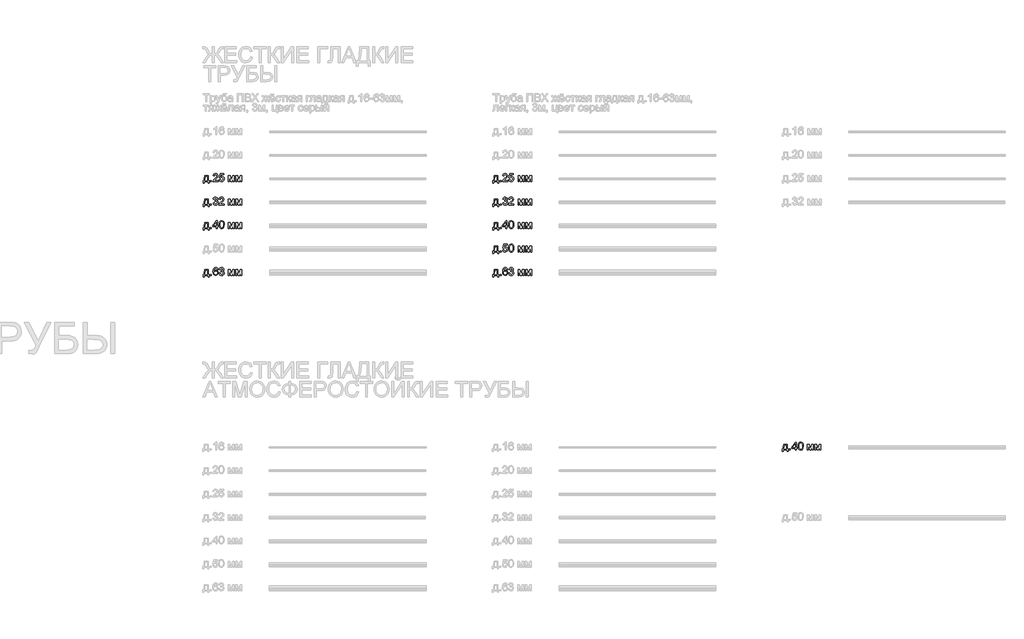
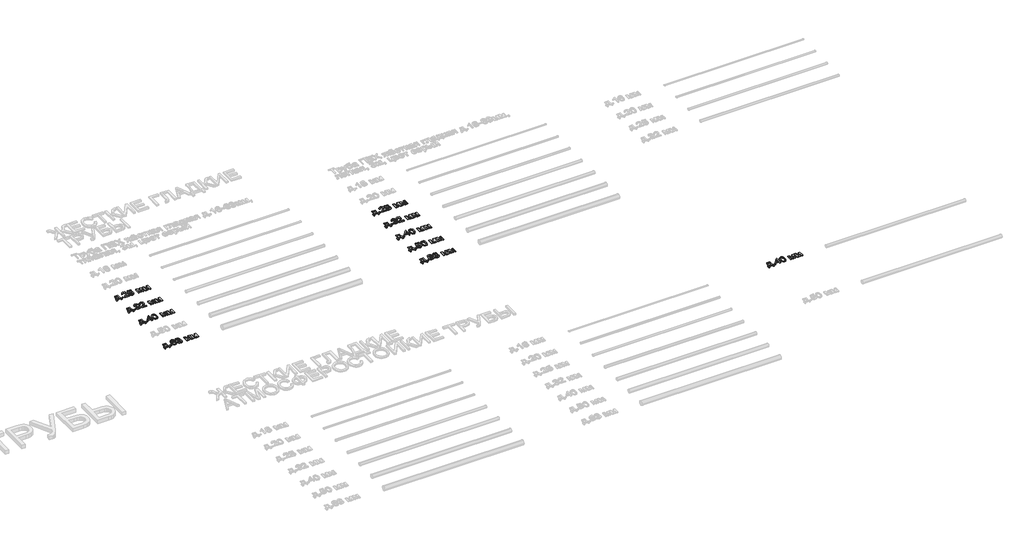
# One storey, part 89 of 98: 10 proxies.
"""IFC4 building model written with IfcOpenShell, lengths in millimetres."""

from ifc_helpers import new_model, si_unit, origin, origin_with_axes, place, context, project, spatial, polyline, outline, extrude, element, save

model = new_model("IFC4")

# Units and contexts
model_context = context("Model", 3, world=origin())
ifc_project = project(units=[si_unit("LENGTHUNIT", "METRE", prefix="MILLI")], contexts=[model_context])

# Site, building, storey
site = spatial("IfcSite", under=ifc_project)
building = spatial("IfcBuilding", under=site)
storey = spatial("IfcBuildingStorey", under=building, Name="Этаж 01", Elevation=0.0)

# Proxies
placement = place(None, origin())
element("IfcBuildingElementProxy", 1, Name="100", ObjectType="100", at=placement, inside=storey, context=model_context, shape_type="SweptSolid", body=[
    extrude(outline(polyline([(-26.9858135, -4163.7647458), (20.1030819, -4163.7647458), (20.1030819, -4224.9803098), (29.520861, -4224.9803098), (29.520861, -4257.9425366), (16.9638222, -4257.9425366), (16.9638222, -4237.5373486), (-34.8339627, -4237.5373486), (-34.8339627, -4257.9425366), (-47.3910015, -4257.9425366), (-47.3910015, -4224.9803098), (-39.5428522, -4224.9803098), (-29.8430303, -4201.031192), (-26.9858135, -4163.7647458)]), holes=[polyline([(-15.9984045, -4176.3217846), (-18.9414605, -4204.9307411), (-25.4161836, -4224.9803098), (7.5460431, -4224.9803098), (7.5460431, -4176.3217846), (-15.9984045, -4176.3217846)])]), origin_with_axes(), (0.0, 0.0, 1.0), 10.0),
    extrude(outline(polyline([(46.7867893, -4237.5373486), (46.7867893, -4224.9803098), (59.3438281, -4224.9803098), (59.3438281, -4237.5373486), (46.7867893, -4237.5373486)])), origin_with_axes(), (0.0, 0.0, 1.0), 10.0),
    extrude(outline(polyline([(144.1038398, -4224.9803098), (144.1038398, -4237.5373486), (78.1793862, -4237.5373486), (79.5282869, -4228.879859), (87.1557069, -4215.550268), (102.8765308, -4200.9944038), (124.5570431, -4180.074181), (129.9771711, -4165.8494105), (124.8636114, -4154.334704), (111.509495, -4149.6380772), (97.5912928, -4154.2243394), (92.3060548, -4166.9040055), (79.7490161, -4165.3343757), (82.7932396, -4153.1881385), (89.3752616, -4144.316051), (99.1517256, -4138.8897916), (111.7792751, -4137.0810385), (124.4987951, -4139.0921267), (134.256865, -4145.1253914), (140.4648737, -4154.1385003), (142.5342099, -4165.089121), (140.3023925, -4176.9962349), (132.8834389, -4189.308019), (114.8940093, -4206.5126337), (100.4485097, -4218.5914259), (94.7831269, -4224.9803098), (144.1038398, -4224.9803098)])), origin_with_axes(), (0.0, 0.0, 1.0), 10.0),
    extrude(outline(polyline([(156.6608785, -4210.8536412), (169.2179173, -4209.2840114), (175.5454876, -4222.2211949), (188.6666121, -4226.5499397), (197.6674583, -4225.0446892), (204.4119615, -4220.5289377), (208.6242103, -4213.5238514), (210.0282933, -4204.5505964), (204.7675808, -4189.6391128), (198.1610333, -4185.5372286), (188.8628158, -4184.1699338), (177.8386187, -4186.3527004), (170.7875471, -4192.0180831), (158.2305084, -4190.4484532), (169.2179173, -4138.6506683), (217.8764425, -4138.6506683), (217.8764425, -4151.2077071), (179.3714604, -4151.2077071), (174.0003832, -4178.8724331), (182.9705725, -4173.4277796), (192.3699575, -4171.6128951), (204.1023275, -4173.8631066), (213.8420033, -4180.6137412), (220.3994999, -4190.9021744), (222.5853321, -4203.7657815), (220.6171634, -4216.3228202), (214.7126574, -4227.0649745), (203.4064174, -4236.0964775), (188.6175612, -4239.1069785), (176.2843173, -4237.1725323), (166.4588023, -4231.3691938), (159.7234961, -4222.3714134), (156.6608785, -4210.8536412)])), origin_with_axes(), (0.0, 0.0, 1.0), 10.0),
    extrude(outline(polyline([(275.9527468, -4163.7647458), (297.5596827, -4163.7647458), (314.2124743, -4222.8220688), (332.1651157, -4163.7647458), (352.8646093, -4163.7647458), (352.8646093, -4237.5373486), (340.3075705, -4237.5373486), (340.3075705, -4178.1366691), (322.2568273, -4237.5373486), (305.7757139, -4237.5373486), (288.5097856, -4175.291715), (288.5097856, -4237.5373486), (275.9527468, -4237.5373486), (275.9527468, -4163.7647458)])), origin_with_axes(), (0.0, 0.0, 1.0), 10.0),
    extrude(outline(polyline([(371.7001674, -4163.7647458), (393.3071033, -4163.7647458), (409.9598949, -4222.8220688), (427.9125363, -4163.7647458), (448.6120299, -4163.7647458), (448.6120299, -4237.5373486), (436.0549911, -4237.5373486), (436.0549911, -4178.1366691), (418.0042479, -4237.5373486), (401.5231345, -4237.5373486), (384.2572062, -4175.291715), (384.2572062, -4237.5373486), (371.7001674, -4237.5373486), (371.7001674, -4163.7647458)])), origin_with_axes(), (0.0, 0.0, 1.0), 10.0),
])
element("IfcBuildingElementProxy", 2, Name="100", ObjectType="100", at=placement, inside=storey, context=model_context, shape_type="SweptSolid", body=[
    extrude(outline(polyline([(-26.9858135, -4463.7647458), (20.1030819, -4463.7647458), (20.1030819, -4524.9803098), (29.520861, -4524.9803098), (29.520861, -4557.9425366), (16.9638222, -4557.9425366), (16.9638222, -4537.5373486), (-34.8339627, -4537.5373486), (-34.8339627, -4557.9425366), (-47.3910015, -4557.9425366), (-47.3910015, -4524.9803098), (-39.5428522, -4524.9803098), (-29.8430303, -4501.031192), (-26.9858135, -4463.7647458)]), holes=[polyline([(-15.9984045, -4476.3217846), (-18.9414605, -4504.9307411), (-25.4161836, -4524.9803098), (7.5460431, -4524.9803098), (7.5460431, -4476.3217846), (-15.9984045, -4476.3217846)])]), origin_with_axes(), (0.0, 0.0, 1.0), 10.0),
    extrude(outline(polyline([(46.7867893, -4537.5373486), (46.7867893, -4524.9803098), (59.3438281, -4524.9803098), (59.3438281, -4537.5373486), (46.7867893, -4537.5373486)])), origin_with_axes(), (0.0, 0.0, 1.0), 10.0),
    extrude(outline(polyline([(79.7490161, -4510.8536412), (92.3060548, -4509.2840114), (99.2344991, -4522.5032377), (112.196208, -4526.5499397), (120.8046467, -4525.1581195), (127.4510481, -4520.9826588), (133.1164308, -4507.1993467), (127.500099, -4494.2131123), (113.2262776, -4489.0750271), (104.4216352, -4490.4484532), (105.8195868, -4477.8914145), (107.830675, -4478.0385673), (122.079971, -4474.4333237), (126.8256487, -4469.8593242), (128.4075413, -4463.3478129), (123.8212791, -4453.5253636), (112.0000043, -4449.6380772), (100.0315767, -4453.5621518), (93.8756847, -4465.3343757), (81.3186459, -4463.7647458), (85.01586, -4452.4891627), (91.5948163, -4444.0707964), (100.5956625, -4438.8284779), (111.5585459, -4437.0810385), (126.7030214, -4440.5268665), (137.2980228, -4449.9446456), (140.9645801, -4462.6120489), (137.4819638, -4474.188069), (127.181268, -4482.5022021), (140.8664782, -4491.0861154), (145.6734696, -4507.4200759), (143.2699739, -4519.6582836), (136.0594868, -4529.8854031), (125.1763111, -4536.8015846), (111.7547496, -4539.1069785), (99.6146438, -4537.1388098), (89.7308809, -4531.2343038), (82.8576189, -4522.2028008), (79.7490161, -4510.8536412)])), origin_with_axes(), (0.0, 0.0, 1.0), 10.0),
    extrude(outline(polyline([(221.0157022, -4524.9803098), (221.0157022, -4537.5373486), (155.0912487, -4537.5373486), (156.4401493, -4528.879859), (164.0675694, -4515.550268), (179.7883933, -4500.9944038), (201.4689055, -4480.074181), (206.8890336, -4465.8494105), (201.7754739, -4454.334704), (188.4213574, -4449.6380772), (174.5031553, -4454.2243394), (169.2179173, -4466.9040055), (156.6608785, -4465.3343757), (159.705102, -4453.1881385), (166.2871241, -4444.316051), (176.0635881, -4438.8897916), (188.6911376, -4437.0810385), (201.4106576, -4439.0921267), (211.1687275, -4445.1253914), (217.3767361, -4454.1385003), (219.4460724, -4465.089121), (217.2142549, -4476.9962349), (209.7953014, -4489.308019), (191.8058718, -4506.5126337), (177.3603721, -4518.5914259), (171.6949894, -4524.9803098), (221.0157022, -4524.9803098)])), origin_with_axes(), (0.0, 0.0, 1.0), 10.0),
    extrude(outline(polyline([(275.9527468, -4463.7647458), (297.5596827, -4463.7647458), (314.2124743, -4522.8220688), (332.1651157, -4463.7647458), (352.8646093, -4463.7647458), (352.8646093, -4537.5373486), (340.3075705, -4537.5373486), (340.3075705, -4478.1366691), (322.2568273, -4537.5373486), (305.7757139, -4537.5373486), (288.5097856, -4475.291715), (288.5097856, -4537.5373486), (275.9527468, -4537.5373486), (275.9527468, -4463.7647458)])), origin_with_axes(), (0.0, 0.0, 1.0), 10.0),
    extrude(outline(polyline([(371.7001674, -4463.7647458), (393.3071033, -4463.7647458), (409.9598949, -4522.8220688), (427.9125363, -4463.7647458), (448.6120299, -4463.7647458), (448.6120299, -4537.5373486), (436.0549911, -4537.5373486), (436.0549911, -4478.1366691), (418.0042479, -4537.5373486), (401.5231345, -4537.5373486), (384.2572062, -4475.291715), (384.2572062, -4537.5373486), (371.7001674, -4537.5373486), (371.7001674, -4463.7647458)])), origin_with_axes(), (0.0, 0.0, 1.0), 10.0),
])
element("IfcBuildingElementProxy", 3, Name="100", ObjectType="100", at=placement, inside=storey, context=model_context, shape_type="SweptSolid", body=[
    extrude(outline(polyline([(-26.9858135, -4763.7647458), (20.1030819, -4763.7647458), (20.1030819, -4824.9803098), (29.520861, -4824.9803098), (29.520861, -4857.9425366), (16.9638222, -4857.9425366), (16.9638222, -4837.5373486), (-34.8339627, -4837.5373486), (-34.8339627, -4857.9425366), (-47.3910015, -4857.9425366), (-47.3910015, -4824.9803098), (-39.5428522, -4824.9803098), (-29.8430303, -4801.031192), (-26.9858135, -4763.7647458)]), holes=[polyline([(-15.9984045, -4776.3217846), (-18.9414605, -4804.9307411), (-25.4161836, -4824.9803098), (7.5460431, -4824.9803098), (7.5460431, -4776.3217846), (-15.9984045, -4776.3217846)])]), origin_with_axes(), (0.0, 0.0, 1.0), 10.0),
    extrude(outline(polyline([(46.7867893, -4837.5373486), (46.7867893, -4824.9803098), (59.3438281, -4824.9803098), (59.3438281, -4837.5373486), (46.7867893, -4837.5373486)])), origin_with_axes(), (0.0, 0.0, 1.0), 10.0),
    extrude(outline(polyline([(120.5593921, -4837.5373486), (120.5593921, -4813.9929009), (75.0401265, -4813.9929009), (75.0401265, -4801.4358622), (123.6986518, -4738.6506683), (133.1164308, -4738.6506683), (133.1164308, -4801.4358622), (145.6734696, -4801.4358622), (145.6734696, -4813.9929009), (133.1164308, -4813.9929009), (133.1164308, -4837.5373486), (120.5593921, -4837.5373486)]), holes=[polyline([(120.5593921, -4801.4358622), (120.5593921, -4762.6365744), (90.4911703, -4801.4358622), (120.5593921, -4801.4358622)])]), origin_with_axes(), (0.0, 0.0, 1.0), 10.0),
    extrude(outline(polyline([(156.6608785, -4788.1185339), (160.3519612, -4759.2152718), (171.3148447, -4742.5502175), (189.6231053, -4737.0810385), (204.2893342, -4740.3184), (214.4183518, -4749.65034), (220.3044637, -4764.5127726), (222.5853321, -4788.1185339), (218.9310376, -4816.8991687), (208.0049423, -4833.6010113), (199.7735827, -4837.7304867), (189.6231053, -4839.1069785), (176.5755572, -4836.7157455), (166.6672688, -4829.5420466), (159.1624761, -4812.5520298), (156.6608785, -4788.1185339)]), holes=[polyline([(169.2179173, -4788.0940085), (170.6894453, -4807.8462059), (175.1040292, -4819.2781389), (181.6768542, -4824.7319895), (189.6231053, -4826.5499397), (197.5693564, -4824.7258581), (204.1421814, -4819.2536135), (208.5567653, -4807.8155491), (210.0282933, -4788.0940085), (208.6058162, -4768.7863351), (204.3383851, -4757.2654973), (197.7778228, -4751.5449322), (189.4759525, -4749.6380772), (181.6155405, -4751.3180717), (175.3002329, -4756.358055), (170.7384962, -4768.5962627), (169.2179173, -4788.0940085)])]), origin_with_axes(), (0.0, 0.0, 1.0), 10.0),
    extrude(outline(polyline([(275.9527468, -4763.7647458), (297.5596827, -4763.7647458), (314.2124743, -4822.8220688), (332.1651157, -4763.7647458), (352.8646093, -4763.7647458), (352.8646093, -4837.5373486), (340.3075705, -4837.5373486), (340.3075705, -4778.1366691), (322.2568273, -4837.5373486), (305.7757139, -4837.5373486), (288.5097856, -4775.291715), (288.5097856, -4837.5373486), (275.9527468, -4837.5373486), (275.9527468, -4763.7647458)])), origin_with_axes(), (0.0, 0.0, 1.0), 10.0),
    extrude(outline(polyline([(371.7001674, -4763.7647458), (393.3071033, -4763.7647458), (409.9598949, -4822.8220688), (427.9125363, -4763.7647458), (448.6120299, -4763.7647458), (448.6120299, -4837.5373486), (436.0549911, -4837.5373486), (436.0549911, -4778.1366691), (418.0042479, -4837.5373486), (401.5231345, -4837.5373486), (384.2572062, -4775.291715), (384.2572062, -4837.5373486), (371.7001674, -4837.5373486), (371.7001674, -4763.7647458)])), origin_with_axes(), (0.0, 0.0, 1.0), 10.0),
])
element("IfcBuildingElementProxy", 4, Name="100", ObjectType="100", at=placement, inside=storey, context=model_context, shape_type="SweptSolid", body=[
    extrude(outline(polyline([(-26.9858135, -5363.7647458), (20.1030819, -5363.7647458), (20.1030819, -5424.9803098), (29.520861, -5424.9803098), (29.520861, -5457.9425366), (16.9638222, -5457.9425366), (16.9638222, -5437.5373486), (-34.8339627, -5437.5373486), (-34.8339627, -5457.9425366), (-47.3910015, -5457.9425366), (-47.3910015, -5424.9803098), (-39.5428522, -5424.9803098), (-29.8430303, -5401.031192), (-26.9858135, -5363.7647458)]), holes=[polyline([(-15.9984045, -5376.3217846), (-18.9414605, -5404.9307411), (-25.4161836, -5424.9803098), (7.5460431, -5424.9803098), (7.5460431, -5376.3217846), (-15.9984045, -5376.3217846)])]), origin_with_axes(), (0.0, 0.0, 1.0), 10.0),
    extrude(outline(polyline([(46.7867893, -5437.5373486), (46.7867893, -5424.9803098), (59.3438281, -5424.9803098), (59.3438281, -5437.5373486), (46.7867893, -5437.5373486)])), origin_with_axes(), (0.0, 0.0, 1.0), 10.0),
    extrude(outline(polyline([(144.1038398, -5363.7647458), (131.546801, -5365.3343757), (126.7888605, -5354.8620016), (114.2072963, -5349.6380772), (102.8765308, -5352.6792351), (94.3048803, -5364.0958396), (90.736425, -5386.4753277), (101.809673, -5376.4566747), (115.5316715, -5373.1825249), (127.132217, -5375.4204737), (136.8688272, -5382.1343201), (143.472309, -5392.3920964), (145.6734696, -5405.2618349), (141.5286658, -5422.5890769), (130.1243239, -5434.85181), (113.667736, -5439.1069785), (99.4215058, -5436.2865498), (88.0754119, -5427.8252639), (80.6533926, -5412.8892549), (78.1793862, -5390.644657), (80.9262384, -5365.6348127), (89.1667951, -5348.5344312), (100.4178528, -5339.9443867), (114.9921112, -5337.0810385), (126.010177, -5338.8530034), (134.8332135, -5344.1688982), (141.013631, -5352.61179), (144.1038398, -5363.7647458)]), holes=[polyline([(90.736425, -5405.0656312), (93.6426927, -5415.9426755), (101.3682146, -5423.8398757), (112.6867174, -5426.5499397), (120.9732593, -5425.1458567), (127.4878363, -5420.9336079), (131.7092822, -5414.311732), (133.1164308, -5405.6787678), (131.7276763, -5397.3922259), (127.5614127, -5391.0738526), (120.9364711, -5387.0731359), (112.1716826, -5385.7395637), (96.9781562, -5391.0738526), (92.2968578, -5397.2389417), (90.736425, -5405.0656312)])]), origin_with_axes(), (0.0, 0.0, 1.0), 10.0),
    extrude(outline(polyline([(156.6608785, -5410.8536412), (169.2179173, -5409.2840114), (176.1463615, -5422.5032377), (189.1080705, -5426.5499397), (197.7165092, -5425.1581195), (204.3629106, -5420.9826588), (210.0282933, -5407.1993467), (204.4119615, -5394.2131123), (190.1381401, -5389.0750271), (181.3334977, -5390.4484532), (182.7314492, -5377.8914145), (184.7425375, -5378.0385673), (198.9918334, -5374.4333237), (203.7375112, -5369.8593242), (205.3194038, -5363.3478129), (200.7331415, -5353.5253636), (188.9118668, -5349.6380772), (176.9434392, -5353.5621518), (170.7875471, -5365.3343757), (158.2305084, -5363.7647458), (161.9277224, -5352.4891627), (168.5066788, -5344.0707964), (177.5075249, -5338.8284779), (188.4704084, -5337.0810385), (203.6148838, -5340.5268665), (214.2098853, -5349.9446456), (217.8764425, -5362.6120489), (214.3938263, -5374.188069), (204.0931304, -5382.5022021), (217.7783407, -5391.0861154), (222.5853321, -5407.4200759), (220.1818364, -5419.6582836), (212.9713493, -5429.8854031), (202.0881736, -5436.8015846), (188.6666121, -5439.1069785), (176.5265063, -5437.1388098), (166.6427433, -5431.2343038), (159.7694814, -5422.2028008), (156.6608785, -5410.8536412)])), origin_with_axes(), (0.0, 0.0, 1.0), 10.0),
    extrude(outline(polyline([(275.9527468, -5363.7647458), (297.5596827, -5363.7647458), (314.2124743, -5422.8220688), (332.1651157, -5363.7647458), (352.8646093, -5363.7647458), (352.8646093, -5437.5373486), (340.3075705, -5437.5373486), (340.3075705, -5378.1366691), (322.2568273, -5437.5373486), (305.7757139, -5437.5373486), (288.5097856, -5375.291715), (288.5097856, -5437.5373486), (275.9527468, -5437.5373486), (275.9527468, -5363.7647458)])), origin_with_axes(), (0.0, 0.0, 1.0), 10.0),
    extrude(outline(polyline([(371.7001674, -5363.7647458), (393.3071033, -5363.7647458), (409.9598949, -5422.8220688), (427.9125363, -5363.7647458), (448.6120299, -5363.7647458), (448.6120299, -5437.5373486), (436.0549911, -5437.5373486), (436.0549911, -5378.1366691), (418.0042479, -5437.5373486), (401.5231345, -5437.5373486), (384.2572062, -5375.291715), (384.2572062, -5437.5373486), (371.7001674, -5437.5373486), (371.7001674, -5363.7647458)])), origin_with_axes(), (0.0, 0.0, 1.0), 10.0),
])
element("IfcBuildingElementProxy", 5, Name="100", ObjectType="100", at=placement, inside=storey, context=model_context, shape_type="SweptSolid", body=[
    extrude(outline(polyline([(3673.0141865, -4163.7647458), (3720.1030819, -4163.7647458), (3720.1030819, -4224.9803098), (3729.520861, -4224.9803098), (3729.520861, -4257.9425366), (3716.9638222, -4257.9425366), (3716.9638222, -4237.5373486), (3665.1660373, -4237.5373486), (3665.1660373, -4257.9425366), (3652.6089985, -4257.9425366), (3652.6089985, -4224.9803098), (3660.4571478, -4224.9803098), (3670.1569697, -4201.031192), (3673.0141865, -4163.7647458)]), holes=[polyline([(3684.0015955, -4176.3217846), (3681.0585395, -4204.9307411), (3674.5838164, -4224.9803098), (3707.5460431, -4224.9803098), (3707.5460431, -4176.3217846), (3684.0015955, -4176.3217846)])]), origin_with_axes(), (0.0, 0.0, 1.0), 10.0),
    extrude(outline(polyline([(3746.7867893, -4237.5373486), (3746.7867893, -4224.9803098), (3759.3438281, -4224.9803098), (3759.3438281, -4237.5373486), (3746.7867893, -4237.5373486)])), origin_with_axes(), (0.0, 0.0, 1.0), 10.0),
    extrude(outline(polyline([(3844.1038398, -4224.9803098), (3844.1038398, -4237.5373486), (3778.1793862, -4237.5373486), (3779.5282869, -4228.879859), (3787.1557069, -4215.550268), (3802.8765308, -4200.9944038), (3824.5570431, -4180.074181), (3829.9771711, -4165.8494105), (3824.8636114, -4154.334704), (3811.509495, -4149.6380772), (3797.5912928, -4154.2243394), (3792.3060548, -4166.9040055), (3779.7490161, -4165.3343757), (3782.7932396, -4153.1881385), (3789.3752616, -4144.316051), (3799.1517256, -4138.8897916), (3811.7792751, -4137.0810385), (3824.4987951, -4139.0921267), (3834.256865, -4145.1253914), (3840.4648737, -4154.1385003), (3842.5342099, -4165.089121), (3840.3023925, -4176.9962349), (3832.8834389, -4189.308019), (3814.8940093, -4206.5126337), (3800.4485097, -4218.5914259), (3794.7831269, -4224.9803098), (3844.1038398, -4224.9803098)])), origin_with_axes(), (0.0, 0.0, 1.0), 10.0),
    extrude(outline(polyline([(3856.6608785, -4210.8536412), (3869.2179173, -4209.2840114), (3875.5454876, -4222.2211949), (3888.6666121, -4226.5499397), (3897.6674583, -4225.0446892), (3904.4119615, -4220.5289377), (3908.6242103, -4213.5238514), (3910.0282933, -4204.5505964), (3904.7675808, -4189.6391128), (3898.1610333, -4185.5372286), (3888.8628158, -4184.1699338), (3877.8386187, -4186.3527004), (3870.7875471, -4192.0180831), (3858.2305084, -4190.4484532), (3869.2179173, -4138.6506683), (3917.8764425, -4138.6506683), (3917.8764425, -4151.2077071), (3879.3714604, -4151.2077071), (3874.0003832, -4178.8724331), (3882.9705725, -4173.4277796), (3892.3699575, -4171.6128951), (3904.1023275, -4173.8631066), (3913.8420033, -4180.6137412), (3920.3994999, -4190.9021744), (3922.5853321, -4203.7657815), (3920.6171634, -4216.3228202), (3914.7126574, -4227.0649745), (3903.4064174, -4236.0964775), (3888.6175612, -4239.1069785), (3876.2843173, -4237.1725323), (3866.4588023, -4231.3691938), (3859.7234961, -4222.3714134), (3856.6608785, -4210.8536412)])), origin_with_axes(), (0.0, 0.0, 1.0), 10.0),
    extrude(outline(polyline([(3975.9527468, -4163.7647458), (3997.5596827, -4163.7647458), (4014.2124743, -4222.8220688), (4032.1651157, -4163.7647458), (4052.8646093, -4163.7647458), (4052.8646093, -4237.5373486), (4040.3075705, -4237.5373486), (4040.3075705, -4178.1366691), (4022.2568273, -4237.5373486), (4005.7757139, -4237.5373486), (3988.5097856, -4175.291715), (3988.5097856, -4237.5373486), (3975.9527468, -4237.5373486), (3975.9527468, -4163.7647458)])), origin_with_axes(), (0.0, 0.0, 1.0), 10.0),
    extrude(outline(polyline([(4071.7001674, -4163.7647458), (4093.3071033, -4163.7647458), (4109.9598949, -4222.8220688), (4127.9125363, -4163.7647458), (4148.6120299, -4163.7647458), (4148.6120299, -4237.5373486), (4136.0549911, -4237.5373486), (4136.0549911, -4178.1366691), (4118.0042479, -4237.5373486), (4101.5231345, -4237.5373486), (4084.2572062, -4175.291715), (4084.2572062, -4237.5373486), (4071.7001674, -4237.5373486), (4071.7001674, -4163.7647458)])), origin_with_axes(), (0.0, 0.0, 1.0), 10.0),
])
element("IfcBuildingElementProxy", 6, Name="100", ObjectType="100", at=placement, inside=storey, context=model_context, shape_type="SweptSolid", body=[
    extrude(outline(polyline([(3673.0141865, -4463.7647458), (3720.1030819, -4463.7647458), (3720.1030819, -4524.9803098), (3729.520861, -4524.9803098), (3729.520861, -4557.9425366), (3716.9638222, -4557.9425366), (3716.9638222, -4537.5373486), (3665.1660373, -4537.5373486), (3665.1660373, -4557.9425366), (3652.6089985, -4557.9425366), (3652.6089985, -4524.9803098), (3660.4571478, -4524.9803098), (3670.1569697, -4501.031192), (3673.0141865, -4463.7647458)]), holes=[polyline([(3684.0015955, -4476.3217846), (3681.0585395, -4504.9307411), (3674.5838164, -4524.9803098), (3707.5460431, -4524.9803098), (3707.5460431, -4476.3217846), (3684.0015955, -4476.3217846)])]), origin_with_axes(), (0.0, 0.0, 1.0), 10.0),
    extrude(outline(polyline([(3746.7867893, -4537.5373486), (3746.7867893, -4524.9803098), (3759.3438281, -4524.9803098), (3759.3438281, -4537.5373486), (3746.7867893, -4537.5373486)])), origin_with_axes(), (0.0, 0.0, 1.0), 10.0),
    extrude(outline(polyline([(3779.7490161, -4510.8536412), (3792.3060548, -4509.2840114), (3799.2344991, -4522.5032377), (3812.196208, -4526.5499397), (3820.8046467, -4525.1581195), (3827.4510481, -4520.9826588), (3833.1164308, -4507.1993467), (3827.500099, -4494.2131123), (3813.2262776, -4489.0750271), (3804.4216352, -4490.4484532), (3805.8195868, -4477.8914145), (3807.830675, -4478.0385673), (3822.079971, -4474.4333237), (3826.8256487, -4469.8593242), (3828.4075413, -4463.3478129), (3823.8212791, -4453.5253636), (3812.0000043, -4449.6380772), (3800.0315767, -4453.5621518), (3793.8756847, -4465.3343757), (3781.3186459, -4463.7647458), (3785.01586, -4452.4891627), (3791.5948163, -4444.0707964), (3800.5956625, -4438.8284779), (3811.5585459, -4437.0810385), (3826.7030214, -4440.5268665), (3837.2980228, -4449.9446456), (3840.9645801, -4462.6120489), (3837.4819638, -4474.188069), (3827.181268, -4482.5022021), (3840.8664782, -4491.0861154), (3845.6734696, -4507.4200759), (3843.2699739, -4519.6582836), (3836.0594868, -4529.8854031), (3825.1763111, -4536.8015846), (3811.7547496, -4539.1069785), (3799.6146438, -4537.1388098), (3789.7308809, -4531.2343038), (3782.8576189, -4522.2028008), (3779.7490161, -4510.8536412)])), origin_with_axes(), (0.0, 0.0, 1.0), 10.0),
    extrude(outline(polyline([(3921.0157022, -4524.9803098), (3921.0157022, -4537.5373486), (3855.0912487, -4537.5373486), (3856.4401493, -4528.879859), (3864.0675694, -4515.550268), (3879.7883933, -4500.9944038), (3901.4689055, -4480.074181), (3906.8890336, -4465.8494105), (3901.7754739, -4454.334704), (3888.4213574, -4449.6380772), (3874.5031553, -4454.2243394), (3869.2179173, -4466.9040055), (3856.6608785, -4465.3343757), (3859.705102, -4453.1881385), (3866.2871241, -4444.316051), (3876.0635881, -4438.8897916), (3888.6911376, -4437.0810385), (3901.4106576, -4439.0921267), (3911.1687275, -4445.1253914), (3917.3767361, -4454.1385003), (3919.4460724, -4465.089121), (3917.2142549, -4476.9962349), (3909.7953014, -4489.308019), (3891.8058718, -4506.5126337), (3877.3603721, -4518.5914259), (3871.6949894, -4524.9803098), (3921.0157022, -4524.9803098)])), origin_with_axes(), (0.0, 0.0, 1.0), 10.0),
    extrude(outline(polyline([(3975.9527468, -4463.7647458), (3997.5596827, -4463.7647458), (4014.2124743, -4522.8220688), (4032.1651157, -4463.7647458), (4052.8646093, -4463.7647458), (4052.8646093, -4537.5373486), (4040.3075705, -4537.5373486), (4040.3075705, -4478.1366691), (4022.2568273, -4537.5373486), (4005.7757139, -4537.5373486), (3988.5097856, -4475.291715), (3988.5097856, -4537.5373486), (3975.9527468, -4537.5373486), (3975.9527468, -4463.7647458)])), origin_with_axes(), (0.0, 0.0, 1.0), 10.0),
    extrude(outline(polyline([(4071.7001674, -4463.7647458), (4093.3071033, -4463.7647458), (4109.9598949, -4522.8220688), (4127.9125363, -4463.7647458), (4148.6120299, -4463.7647458), (4148.6120299, -4537.5373486), (4136.0549911, -4537.5373486), (4136.0549911, -4478.1366691), (4118.0042479, -4537.5373486), (4101.5231345, -4537.5373486), (4084.2572062, -4475.291715), (4084.2572062, -4537.5373486), (4071.7001674, -4537.5373486), (4071.7001674, -4463.7647458)])), origin_with_axes(), (0.0, 0.0, 1.0), 10.0),
])
element("IfcBuildingElementProxy", 7, Name="100", ObjectType="100", at=placement, inside=storey, context=model_context, shape_type="SweptSolid", body=[
    extrude(outline(polyline([(3673.0141865, -4763.7647458), (3720.1030819, -4763.7647458), (3720.1030819, -4824.9803098), (3729.520861, -4824.9803098), (3729.520861, -4857.9425366), (3716.9638222, -4857.9425366), (3716.9638222, -4837.5373486), (3665.1660373, -4837.5373486), (3665.1660373, -4857.9425366), (3652.6089985, -4857.9425366), (3652.6089985, -4824.9803098), (3660.4571478, -4824.9803098), (3670.1569697, -4801.031192), (3673.0141865, -4763.7647458)]), holes=[polyline([(3684.0015955, -4776.3217846), (3681.0585395, -4804.9307411), (3674.5838164, -4824.9803098), (3707.5460431, -4824.9803098), (3707.5460431, -4776.3217846), (3684.0015955, -4776.3217846)])]), origin_with_axes(), (0.0, 0.0, 1.0), 10.0),
    extrude(outline(polyline([(3746.7867893, -4837.5373486), (3746.7867893, -4824.9803098), (3759.3438281, -4824.9803098), (3759.3438281, -4837.5373486), (3746.7867893, -4837.5373486)])), origin_with_axes(), (0.0, 0.0, 1.0), 10.0),
    extrude(outline(polyline([(3820.5593921, -4837.5373486), (3820.5593921, -4813.9929009), (3775.0401265, -4813.9929009), (3775.0401265, -4801.4358622), (3823.6986518, -4738.6506683), (3833.1164308, -4738.6506683), (3833.1164308, -4801.4358622), (3845.6734696, -4801.4358622), (3845.6734696, -4813.9929009), (3833.1164308, -4813.9929009), (3833.1164308, -4837.5373486), (3820.5593921, -4837.5373486)]), holes=[polyline([(3820.5593921, -4801.4358622), (3820.5593921, -4762.6365744), (3790.4911703, -4801.4358622), (3820.5593921, -4801.4358622)])]), origin_with_axes(), (0.0, 0.0, 1.0), 10.0),
    extrude(outline(polyline([(3856.6608785, -4788.1185339), (3860.3519612, -4759.2152718), (3871.3148447, -4742.5502175), (3889.6231053, -4737.0810385), (3904.2893342, -4740.3184), (3914.4183518, -4749.65034), (3920.3044637, -4764.5127726), (3922.5853321, -4788.1185339), (3918.9310376, -4816.8991687), (3908.0049423, -4833.6010113), (3899.7735827, -4837.7304867), (3889.6231053, -4839.1069785), (3876.5755572, -4836.7157455), (3866.6672688, -4829.5420466), (3859.1624761, -4812.5520298), (3856.6608785, -4788.1185339)]), holes=[polyline([(3869.2179173, -4788.0940085), (3870.6894453, -4807.8462059), (3875.1040292, -4819.2781389), (3881.6768542, -4824.7319895), (3889.6231053, -4826.5499397), (3897.5693564, -4824.7258581), (3904.1421814, -4819.2536135), (3908.5567653, -4807.8155491), (3910.0282933, -4788.0940085), (3908.6058162, -4768.7863351), (3904.3383851, -4757.2654973), (3897.7778228, -4751.5449322), (3889.4759525, -4749.6380772), (3881.6155405, -4751.3180717), (3875.3002329, -4756.358055), (3870.7384962, -4768.5962627), (3869.2179173, -4788.0940085)])]), origin_with_axes(), (0.0, 0.0, 1.0), 10.0),
    extrude(outline(polyline([(3975.9527468, -4763.7647458), (3997.5596827, -4763.7647458), (4014.2124743, -4822.8220688), (4032.1651157, -4763.7647458), (4052.8646093, -4763.7647458), (4052.8646093, -4837.5373486), (4040.3075705, -4837.5373486), (4040.3075705, -4778.1366691), (4022.2568273, -4837.5373486), (4005.7757139, -4837.5373486), (3988.5097856, -4775.291715), (3988.5097856, -4837.5373486), (3975.9527468, -4837.5373486), (3975.9527468, -4763.7647458)])), origin_with_axes(), (0.0, 0.0, 1.0), 10.0),
    extrude(outline(polyline([(4071.7001674, -4763.7647458), (4093.3071033, -4763.7647458), (4109.9598949, -4822.8220688), (4127.9125363, -4763.7647458), (4148.6120299, -4763.7647458), (4148.6120299, -4837.5373486), (4136.0549911, -4837.5373486), (4136.0549911, -4778.1366691), (4118.0042479, -4837.5373486), (4101.5231345, -4837.5373486), (4084.2572062, -4775.291715), (4084.2572062, -4837.5373486), (4071.7001674, -4837.5373486), (4071.7001674, -4763.7647458)])), origin_with_axes(), (0.0, 0.0, 1.0), 10.0),
])
element("IfcBuildingElementProxy", 8, Name="100", ObjectType="100", at=placement, inside=storey, context=model_context, shape_type="SweptSolid", body=[
    extrude(outline(polyline([(3673.0141865, -5063.7647458), (3720.1030819, -5063.7647458), (3720.1030819, -5124.9803098), (3729.520861, -5124.9803098), (3729.520861, -5157.9425366), (3716.9638222, -5157.9425366), (3716.9638222, -5137.5373486), (3665.1660373, -5137.5373486), (3665.1660373, -5157.9425366), (3652.6089985, -5157.9425366), (3652.6089985, -5124.9803098), (3660.4571478, -5124.9803098), (3670.1569697, -5101.031192), (3673.0141865, -5063.7647458)]), holes=[polyline([(3684.0015955, -5076.3217846), (3681.0585395, -5104.9307411), (3674.5838164, -5124.9803098), (3707.5460431, -5124.9803098), (3707.5460431, -5076.3217846), (3684.0015955, -5076.3217846)])]), origin_with_axes(), (0.0, 0.0, 1.0), 10.0),
    extrude(outline(polyline([(3746.7867893, -5137.5373486), (3746.7867893, -5124.9803098), (3759.3438281, -5124.9803098), (3759.3438281, -5137.5373486), (3746.7867893, -5137.5373486)])), origin_with_axes(), (0.0, 0.0, 1.0), 10.0),
    extrude(outline(polyline([(3779.7490161, -5110.8536412), (3792.3060548, -5109.2840114), (3798.6336251, -5122.2211949), (3811.7547496, -5126.5499397), (3820.7555958, -5125.0446892), (3827.500099, -5120.5289377), (3831.7123479, -5113.5238514), (3833.1164308, -5104.5505964), (3827.8557183, -5089.6391128), (3821.2491708, -5085.5372286), (3811.9509534, -5084.1699338), (3800.9267563, -5086.3527004), (3793.8756847, -5092.0180831), (3781.3186459, -5090.4484532), (3792.3060548, -5038.6506683), (3840.9645801, -5038.6506683), (3840.9645801, -5051.2077071), (3802.4595979, -5051.2077071), (3797.0885208, -5078.8724331), (3806.0587101, -5073.4277796), (3815.4580951, -5071.6128951), (3827.190465, -5073.8631066), (3836.9301408, -5080.6137412), (3843.4876374, -5090.9021744), (3845.6734696, -5103.7657815), (3843.7053009, -5116.3228202), (3837.8007949, -5127.0649745), (3826.4945549, -5136.0964775), (3811.7056987, -5139.1069785), (3799.3724548, -5137.1725323), (3789.5469399, -5131.3691938), (3782.8116337, -5122.3714134), (3779.7490161, -5110.8536412)])), origin_with_axes(), (0.0, 0.0, 1.0), 10.0),
    extrude(outline(polyline([(3856.6608785, -5088.1185339), (3860.3519612, -5059.2152718), (3871.3148447, -5042.5502175), (3889.6231053, -5037.0810385), (3904.2893342, -5040.3184), (3914.4183518, -5049.65034), (3920.3044637, -5064.5127726), (3922.5853321, -5088.1185339), (3918.9310376, -5116.8991687), (3908.0049423, -5133.6010113), (3899.7735827, -5137.7304867), (3889.6231053, -5139.1069785), (3876.5755572, -5136.7157455), (3866.6672688, -5129.5420466), (3859.1624761, -5112.5520298), (3856.6608785, -5088.1185339)]), holes=[polyline([(3869.2179173, -5088.0940085), (3870.6894453, -5107.8462059), (3875.1040292, -5119.2781389), (3881.6768542, -5124.7319895), (3889.6231053, -5126.5499397), (3897.5693564, -5124.7258581), (3904.1421814, -5119.2536135), (3908.5567653, -5107.8155491), (3910.0282933, -5088.0940085), (3908.6058162, -5068.7863351), (3904.3383851, -5057.2654973), (3897.7778228, -5051.5449322), (3889.4759525, -5049.6380772), (3881.6155405, -5051.3180717), (3875.3002329, -5056.358055), (3870.7384962, -5068.5962627), (3869.2179173, -5088.0940085)])]), origin_with_axes(), (0.0, 0.0, 1.0), 10.0),
    extrude(outline(polyline([(3975.9527468, -5063.7647458), (3997.5596827, -5063.7647458), (4014.2124743, -5122.8220688), (4032.1651157, -5063.7647458), (4052.8646093, -5063.7647458), (4052.8646093, -5137.5373486), (4040.3075705, -5137.5373486), (4040.3075705, -5078.1366691), (4022.2568273, -5137.5373486), (4005.7757139, -5137.5373486), (3988.5097856, -5075.291715), (3988.5097856, -5137.5373486), (3975.9527468, -5137.5373486), (3975.9527468, -5063.7647458)])), origin_with_axes(), (0.0, 0.0, 1.0), 10.0),
    extrude(outline(polyline([(4071.7001674, -5063.7647458), (4093.3071033, -5063.7647458), (4109.9598949, -5122.8220688), (4127.9125363, -5063.7647458), (4148.6120299, -5063.7647458), (4148.6120299, -5137.5373486), (4136.0549911, -5137.5373486), (4136.0549911, -5078.1366691), (4118.0042479, -5137.5373486), (4101.5231345, -5137.5373486), (4084.2572062, -5075.291715), (4084.2572062, -5137.5373486), (4071.7001674, -5137.5373486), (4071.7001674, -5063.7647458)])), origin_with_axes(), (0.0, 0.0, 1.0), 10.0),
])
element("IfcBuildingElementProxy", 9, Name="100", ObjectType="100", at=placement, inside=storey, context=model_context, shape_type="SweptSolid", body=[
    extrude(outline(polyline([(3673.0141865, -5363.7647458), (3720.1030819, -5363.7647458), (3720.1030819, -5424.9803098), (3729.520861, -5424.9803098), (3729.520861, -5457.9425366), (3716.9638222, -5457.9425366), (3716.9638222, -5437.5373486), (3665.1660373, -5437.5373486), (3665.1660373, -5457.9425366), (3652.6089985, -5457.9425366), (3652.6089985, -5424.9803098), (3660.4571478, -5424.9803098), (3670.1569697, -5401.031192), (3673.0141865, -5363.7647458)]), holes=[polyline([(3684.0015955, -5376.3217846), (3681.0585395, -5404.9307411), (3674.5838164, -5424.9803098), (3707.5460431, -5424.9803098), (3707.5460431, -5376.3217846), (3684.0015955, -5376.3217846)])]), origin_with_axes(), (0.0, 0.0, 1.0), 10.0),
    extrude(outline(polyline([(3746.7867893, -5437.5373486), (3746.7867893, -5424.9803098), (3759.3438281, -5424.9803098), (3759.3438281, -5437.5373486), (3746.7867893, -5437.5373486)])), origin_with_axes(), (0.0, 0.0, 1.0), 10.0),
    extrude(outline(polyline([(3844.1038398, -5363.7647458), (3831.546801, -5365.3343757), (3826.7888605, -5354.8620016), (3814.2072963, -5349.6380772), (3802.8765308, -5352.6792351), (3794.3048803, -5364.0958396), (3790.736425, -5386.4753277), (3801.809673, -5376.4566747), (3815.5316715, -5373.1825249), (3827.132217, -5375.4204737), (3836.8688272, -5382.1343201), (3843.472309, -5392.3920964), (3845.6734696, -5405.2618349), (3841.5286658, -5422.5890769), (3830.1243239, -5434.85181), (3813.667736, -5439.1069785), (3799.4215058, -5436.2865498), (3788.0754119, -5427.8252639), (3780.6533926, -5412.8892549), (3778.1793862, -5390.644657), (3780.9262384, -5365.6348127), (3789.1667951, -5348.5344312), (3800.4178528, -5339.9443867), (3814.9921112, -5337.0810385), (3826.010177, -5338.8530034), (3834.8332135, -5344.1688982), (3841.013631, -5352.61179), (3844.1038398, -5363.7647458)]), holes=[polyline([(3790.736425, -5405.0656312), (3793.6426927, -5415.9426755), (3801.3682146, -5423.8398757), (3812.6867174, -5426.5499397), (3820.9732593, -5425.1458567), (3827.4878363, -5420.9336079), (3831.7092822, -5414.311732), (3833.1164308, -5405.6787678), (3831.7276763, -5397.3922259), (3827.5614127, -5391.0738526), (3820.9364711, -5387.0731359), (3812.1716826, -5385.7395637), (3796.9781562, -5391.0738526), (3792.2968578, -5397.2389417), (3790.736425, -5405.0656312)])]), origin_with_axes(), (0.0, 0.0, 1.0), 10.0),
    extrude(outline(polyline([(3856.6608785, -5410.8536412), (3869.2179173, -5409.2840114), (3876.1463615, -5422.5032377), (3889.1080705, -5426.5499397), (3897.7165092, -5425.1581195), (3904.3629106, -5420.9826588), (3910.0282933, -5407.1993467), (3904.4119615, -5394.2131123), (3890.1381401, -5389.0750271), (3881.3334977, -5390.4484532), (3882.7314492, -5377.8914145), (3884.7425375, -5378.0385673), (3898.9918334, -5374.4333237), (3903.7375112, -5369.8593242), (3905.3194038, -5363.3478129), (3900.7331415, -5353.5253636), (3888.9118668, -5349.6380772), (3876.9434392, -5353.5621518), (3870.7875471, -5365.3343757), (3858.2305084, -5363.7647458), (3861.9277224, -5352.4891627), (3868.5066788, -5344.0707964), (3877.5075249, -5338.8284779), (3888.4704084, -5337.0810385), (3903.6148838, -5340.5268665), (3914.2098853, -5349.9446456), (3917.8764425, -5362.6120489), (3914.3938263, -5374.188069), (3904.0931304, -5382.5022021), (3917.7783407, -5391.0861154), (3922.5853321, -5407.4200759), (3920.1818364, -5419.6582836), (3912.9713493, -5429.8854031), (3902.0881736, -5436.8015846), (3888.6666121, -5439.1069785), (3876.5265063, -5437.1388098), (3866.6427433, -5431.2343038), (3859.7694814, -5422.2028008), (3856.6608785, -5410.8536412)])), origin_with_axes(), (0.0, 0.0, 1.0), 10.0),
    extrude(outline(polyline([(3975.9527468, -5363.7647458), (3997.5596827, -5363.7647458), (4014.2124743, -5422.8220688), (4032.1651157, -5363.7647458), (4052.8646093, -5363.7647458), (4052.8646093, -5437.5373486), (4040.3075705, -5437.5373486), (4040.3075705, -5378.1366691), (4022.2568273, -5437.5373486), (4005.7757139, -5437.5373486), (3988.5097856, -5375.291715), (3988.5097856, -5437.5373486), (3975.9527468, -5437.5373486), (3975.9527468, -5363.7647458)])), origin_with_axes(), (0.0, 0.0, 1.0), 10.0),
    extrude(outline(polyline([(4071.7001674, -5363.7647458), (4093.3071033, -5363.7647458), (4109.9598949, -5422.8220688), (4127.9125363, -5363.7647458), (4148.6120299, -5363.7647458), (4148.6120299, -5437.5373486), (4136.0549911, -5437.5373486), (4136.0549911, -5378.1366691), (4118.0042479, -5437.5373486), (4101.5231345, -5437.5373486), (4084.2572062, -5375.291715), (4084.2572062, -5437.5373486), (4071.7001674, -5437.5373486), (4071.7001674, -5363.7647458)])), origin_with_axes(), (0.0, 0.0, 1.0), 10.0),
])
element("IfcBuildingElementProxy", 10, Name="100", ObjectType="100", at=placement, inside=storey, context=model_context, shape_type="SweptSolid", body=[
    extrude(outline(polyline([(7370.1856084, -7596.7269726), (7417.2745038, -7596.7269726), (7417.2745038, -7657.9425366), (7426.6922829, -7657.9425366), (7426.6922829, -7690.9047634), (7414.1352441, -7690.9047634), (7414.1352441, -7670.4995754), (7362.3374592, -7670.4995754), (7362.3374592, -7690.9047634), (7349.7804204, -7690.9047634), (7349.7804204, -7657.9425366), (7357.6285697, -7657.9425366), (7367.3283916, -7633.9934187), (7370.1856084, -7596.7269726)]), holes=[polyline([(7381.1730173, -7609.2840114), (7378.2299614, -7637.8929679), (7371.7552383, -7657.9425366), (7404.717465, -7657.9425366), (7404.717465, -7609.2840114), (7381.1730173, -7609.2840114)])]), origin_with_axes(), (0.0, 0.0, 1.0), 10.0),
    extrude(outline(polyline([(7443.9582112, -7670.4995754), (7443.9582112, -7657.9425366), (7456.51525, -7657.9425366), (7456.51525, -7670.4995754), (7443.9582112, -7670.4995754)])), origin_with_axes(), (0.0, 0.0, 1.0), 10.0),
    extrude(outline(polyline([(7517.730814, -7670.4995754), (7517.730814, -7646.9551277), (7472.2115484, -7646.9551277), (7472.2115484, -7634.3980889), (7520.8700736, -7571.6128951), (7530.2878527, -7571.6128951), (7530.2878527, -7634.3980889), (7542.8448915, -7634.3980889), (7542.8448915, -7646.9551277), (7530.2878527, -7646.9551277), (7530.2878527, -7670.4995754), (7517.730814, -7670.4995754)]), holes=[polyline([(7517.730814, -7634.3980889), (7517.730814, -7595.5988012), (7487.6625922, -7634.3980889), (7517.730814, -7634.3980889)])]), origin_with_axes(), (0.0, 0.0, 1.0), 10.0),
    extrude(outline(polyline([(7553.8323004, -7621.0807607), (7557.5233831, -7592.1774986), (7568.4862666, -7575.5124442), (7586.7945272, -7570.0432652), (7601.4607561, -7573.2806268), (7611.5897737, -7582.6125667), (7617.4758856, -7597.4749993), (7619.7567539, -7621.0807607), (7616.1024595, -7649.8613955), (7605.1763642, -7666.563238), (7596.9450046, -7670.6927134), (7586.7945272, -7672.0692052), (7573.7469791, -7669.6779723), (7563.8386907, -7662.5042734), (7556.333898, -7645.5142565), (7553.8323004, -7621.0807607)]), holes=[polyline([(7566.3893392, -7621.0562352), (7567.8608672, -7640.8084327), (7572.2754511, -7652.2403657), (7578.8482761, -7657.6942163), (7586.7945272, -7659.5121665), (7594.7407783, -7657.6880849), (7601.3136033, -7652.2158402), (7605.7281872, -7640.7777759), (7607.1997152, -7621.0562352), (7605.7772381, -7601.7485618), (7601.509807, -7590.227724), (7594.9492447, -7584.507159), (7586.6473744, -7582.600304), (7578.7869624, -7584.2802984), (7572.4716548, -7589.3202818), (7567.9099181, -7601.5584895), (7566.3893392, -7621.0562352)])]), origin_with_axes(), (0.0, 0.0, 1.0), 10.0),
    extrude(outline(polyline([(7673.1241687, -7596.7269726), (7694.7311046, -7596.7269726), (7711.3838962, -7655.7842956), (7729.3365376, -7596.7269726), (7750.0360312, -7596.7269726), (7750.0360312, -7670.4995754), (7737.4789924, -7670.4995754), (7737.4789924, -7611.0988959), (7719.4282492, -7670.4995754), (7702.9471358, -7670.4995754), (7685.6812075, -7608.2539418), (7685.6812075, -7670.4995754), (7673.1241687, -7670.4995754), (7673.1241687, -7596.7269726)])), origin_with_axes(), (0.0, 0.0, 1.0), 10.0),
    extrude(outline(polyline([(7768.8715893, -7596.7269726), (7790.4785252, -7596.7269726), (7807.1313168, -7655.7842956), (7825.0839582, -7596.7269726), (7845.7834518, -7596.7269726), (7845.7834518, -7670.4995754), (7833.226413, -7670.4995754), (7833.226413, -7611.0988959), (7815.1756698, -7670.4995754), (7798.6945564, -7670.4995754), (7781.4286281, -7608.2539418), (7781.4286281, -7670.4995754), (7768.8715893, -7670.4995754), (7768.8715893, -7596.7269726)])), origin_with_axes(), (0.0, 0.0, 1.0), 10.0),
])

save(model, "model.ifc")
